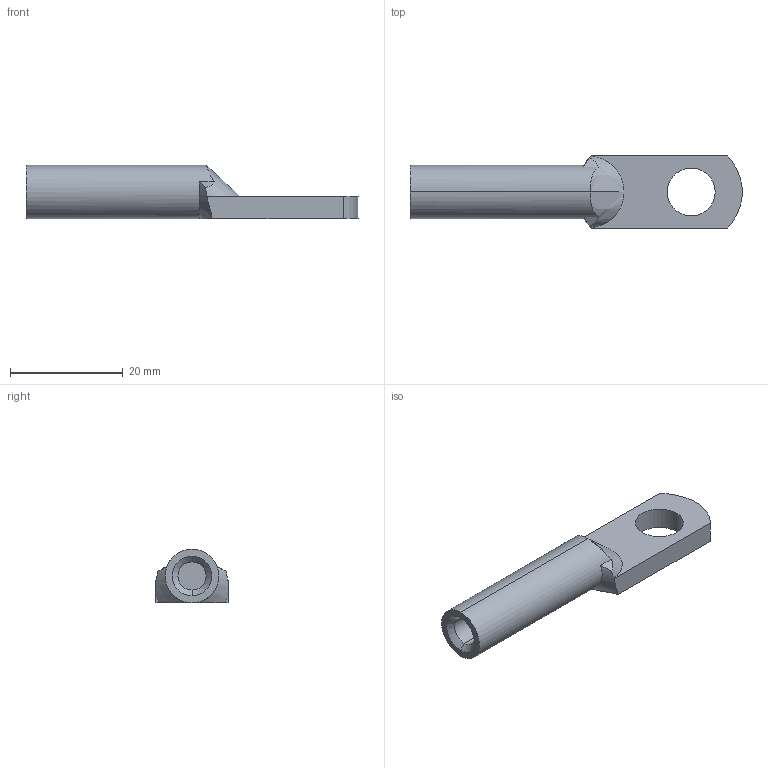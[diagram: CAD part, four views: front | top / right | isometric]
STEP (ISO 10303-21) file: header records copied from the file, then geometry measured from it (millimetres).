
FILE_DESCRIPTION (( 'STEP AP203' ), '1' );
FILE_NAME ('dl-6-8 侲膰翴籦鴀 DL-6-8.STEP', '2017-02-07T17:23:42', ( 'kuryshev' ), ( '' ), 'SwSTEP 2.0', 'SolidWorks 2010', '' );
FILE_SCHEMA (( 'CONFIG_CONTROL_DESIGN' ));
Length unit declared in the file: millimetre
Products named in the file (1): dl-6-8 侲膰翴籦鴀 DL-6-8
Bounding box: 58.97 x 12.8 x 9.5 mm (x, y, z)
Volume: 2849.2 mm3; surface area: 2512.8 mm2
Topology: 1 solids, 1 shells, 23 faces, 55 edges, 35 vertices
Faces by surface type: plane 10, cylinder 7, cone 4, bspline 2
Entity records: 832 total; most frequent: CARTESIAN_POINT 232, ORIENTED_EDGE 110, DIRECTION 105, EDGE_CURVE 55, AXIS2_PLACEMENT_3D 42, VERTEX_POINT 35, EDGE_LOOP 26, FACE_OUTER_BOUND 23
